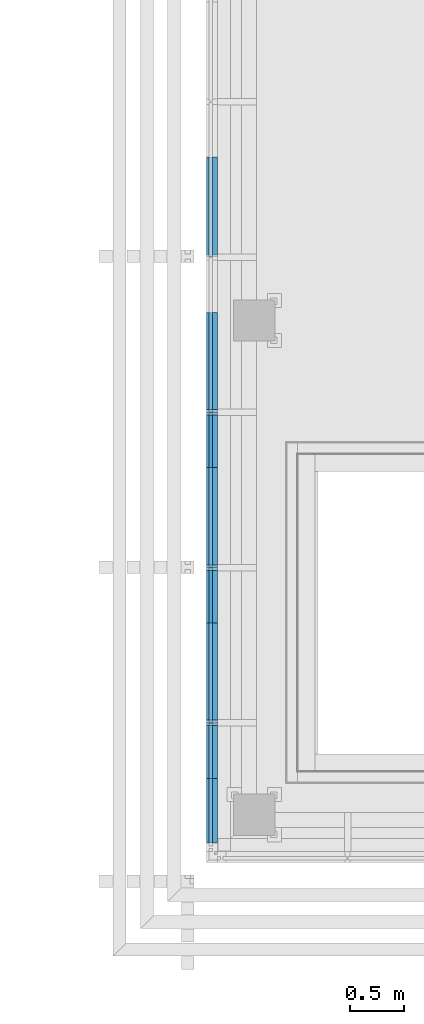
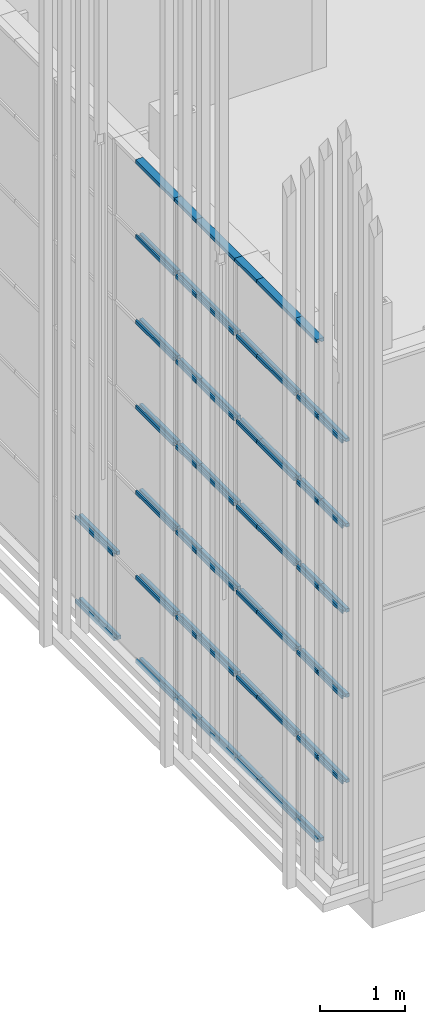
# One storey, part 39 of 260: 49 members, 1 element without a shape of its own.
"""IFC2X3 building model written with IfcOpenShell, lengths in millimetres."""

from ifc_helpers import new_model, entity, si_unit, converted_unit, derived_unit, money_unit, direction, frame, origin_with_axes, place, context, subcontext, project, spatial, faceted_brep, source, transform, mapped, material, type_object, element, aggregate, save


model = new_model("IFC2X3")

# Units and contexts
model_context = context("Model", 3, precision=0.01, world=origin_with_axes(), true_north=direction((0.0, 1.0)))
body_context = subcontext(model_context, "Body", "Model", "MODEL_VIEW")
ifc_project = project(units=[si_unit("LENGTHUNIT", "METRE", prefix="MILLI"), si_unit("AREAUNIT", "SQUARE_METRE"), si_unit("VOLUMEUNIT", "CUBIC_METRE"), converted_unit("PLANEANGLEUNIT", "DEGREE", entity("IfcPlaneAngleMeasure", 0.0174532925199), si_unit("PLANEANGLEUNIT", "RADIAN"), dimensions=[0, 0, 0, 0, 0, 0, 0]), money_unit("EUR"), converted_unit("TIMEUNIT", "Year", entity("IfcTimeMeasure", 31556926.0), si_unit("TIMEUNIT", "SECOND"), dimensions=[0, 0, 1, 0, 0, 0, 0]), si_unit("MASSUNIT", "GRAM", prefix="KILO"), si_unit("THERMODYNAMICTEMPERATUREUNIT", "DEGREE_CELSIUS"), si_unit("LUMINOUSINTENSITYUNIT", "LUMEN"), si_unit("ENERGYUNIT", "JOULE", prefix="MEGA"), derived_unit("THERMALCONDUCTANCEUNIT", [(si_unit("POWERUNIT", "WATT"), 1), (si_unit("LENGTHUNIT", "METRE"), -1), (si_unit("THERMODYNAMICTEMPERATUREUNIT", "KELVIN"), -1)]), derived_unit("SPECIFICHEATCAPACITYUNIT", [(si_unit("ENERGYUNIT", "JOULE"), 1), (si_unit("MASSUNIT", "GRAM", prefix="KILO"), -1), (si_unit("THERMODYNAMICTEMPERATUREUNIT", "KELVIN"), -1)]), derived_unit("MASSDENSITYUNIT", [(si_unit("MASSUNIT", "GRAM", prefix="KILO"), 1), (si_unit("VOLUMEUNIT", "CUBIC_METRE"), -1)])], contexts=[model_context])

# Site, building, storey
site_placement = place(None, origin_with_axes())
site = spatial("IfcSite", under=ifc_project, at=site_placement, Name="Kolde pst 67a", CompositionType="ELEMENT")
building_placement = place(site_placement, origin_with_axes())
building = spatial("IfcBuilding", under=site, at=building_placement, Name="Riigigümnaasium", CompositionType="ELEMENT")
storey_placement = place(building_placement, origin_with_axes())
storey = spatial("IfcBuildingStorey", under=building, at=storey_placement, Name="1. korrus", CompositionType="ELEMENT", Elevation=0.0)

# Curtain wall, members
curtain_wall_type = type_object("IfcCurtainWallType", Name="Curtain Wall Type", PredefinedType="NOTDEFINED")
curtain_wall_placement = place(storey_placement, frame((47829.9854655, 8727.77020058, -0.000749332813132), z_axis=(0.0, 0.0, 1.0), x_axis=(1.0, 0.0, 0.0)))
curtain_wall = element("IfcCurtainWall", 1, at=curtain_wall_placement, inside=storey, type_object=curtain_wall_type, Name="KLAASFASSAAD")
ifc_material = material(Name="_METALL - alumiinium")
member_type_1 = type_object("IfcMemberType", Name="Transom Frame 50 x 100", PredefinedType="MEMBER")
shared_shape_1 = source(origin_with_axes(), body_context, "Body", "Brep", [
    faceted_brep([(5.0, -16.5, 734.770410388), (5.0, 16.5, 734.770410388), (25.0, 16.5, 734.770410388), (25.0, 40.0, 734.770410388), (-25.0, 40.0, 734.770410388), (-25.0, 16.5, 734.770410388), (-5.0, 16.5, 734.770410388), (-5.0, -16.5, 734.770410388), (-25.0, -16.5, 734.770410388), (-25.0, -60.0, 734.770410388), (25.0, -60.0, 734.770410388), (25.0, -16.5, 734.770410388), (5.0, -16.5, 140.0), (5.0, 16.5, 140.0), (25.0, 16.5, 140.0), (25.0, 40.0, 140.0), (-25.0, 40.0, 140.0), (-25.0, 16.5, 140.0), (-5.0, 16.5, 140.0), (-5.0, -16.5, 140.0), (-25.0, -16.5, 140.0), (-25.0, -60.0, 140.0), (25.0, -60.0, 140.0), (25.0, -16.5, 140.0)], [[[0, 1, 2, 3, 4, 5, 6, 7, 8, 9, 10, 11]], [[0, 12, 13, 1]], [[1, 13, 14, 2]], [[14, 15, 3, 2]], [[4, 3, 15, 16]], [[17, 5, 4, 16]], [[5, 17, 18, 6]], [[7, 6, 18, 19]], [[8, 7, 19, 20]], [[8, 20, 21, 9]], [[10, 9, 21, 22]], [[11, 10, 22, 23]], [[11, 23, 12, 0]], [[13, 12, 23, 22, 21, 20, 19, 18, 17, 16, 15, 14]]]),
])
member_1_placement = place(curtain_wall_placement, frame((-23999.9841542, 15102.5038042, 6150.00074933), z_axis=(7.6476848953e-06, 0.999999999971, 0.0), x_axis=(0.0, 0.0, 1.0)))
member_1 = element("IfcMember", 2, at=member_1_placement, type_object=member_type_1, material=ifc_material, Name="RF RAAM HOR-241", ObjectType="MEMBER", context=body_context, shape_type="MappedRepresentation", body=[
    mapped(shared_shape_1, transform((0.0, 0.0, 0.0), x_axis=(-1.0, 0.0, 0.0), y_axis=(0.0, -1.0, 0.0), z_axis=(0.0, 0.0, 1.0))),
])
member_2_placement = place(curtain_wall_placement, frame((-23999.9841542, 15102.5038042, 4920.00074933), z_axis=(7.6476848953e-06, 0.999999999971, 0.0), x_axis=(0.0, 0.0, 1.0)))
member_2 = element("IfcMember", 3, at=member_2_placement, type_object=member_type_1, material=ifc_material, Name="RF RAAM HOR-242", ObjectType="MEMBER", context=body_context, shape_type="MappedRepresentation", body=[
    mapped(shared_shape_1, transform((0.0, 0.0, 0.0), x_axis=(-1.0, 0.0, 0.0), y_axis=(0.0, -1.0, 0.0), z_axis=(0.0, 0.0, 1.0))),
])
member_3_placement = place(curtain_wall_placement, frame((-23999.9841542, 15102.5038042, 3690.00074933), z_axis=(7.6476848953e-06, 0.999999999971, 0.0), x_axis=(0.0, 0.0, 1.0)))
member_3 = element("IfcMember", 4, at=member_3_placement, type_object=member_type_1, material=ifc_material, Name="RF RAAM HOR-243", ObjectType="MEMBER", context=body_context, shape_type="MappedRepresentation", body=[
    mapped(shared_shape_1, transform((0.0, 0.0, 0.0), x_axis=(-1.0, 0.0, 0.0), y_axis=(0.0, -1.0, 0.0), z_axis=(0.0, 0.0, 1.0))),
])
member_4_placement = place(curtain_wall_placement, frame((-23999.9841542, 15102.5038042, 2460.00074933), z_axis=(7.6476848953e-06, 0.999999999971, 0.0), x_axis=(0.0, 0.0, 1.0)))
member_4 = element("IfcMember", 5, at=member_4_placement, type_object=member_type_1, material=ifc_material, Name="RF RAAM HOR-244", ObjectType="MEMBER", context=body_context, shape_type="MappedRepresentation", body=[
    mapped(shared_shape_1, transform((0.0, 0.0, 0.0), x_axis=(-1.0, 0.0, 0.0), y_axis=(0.0, -1.0, 0.0), z_axis=(0.0, 0.0, 1.0))),
])
member_5_placement = place(curtain_wall_placement, frame((-23999.9841542, 15102.5038042, 1230.00074933), z_axis=(7.6476848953e-06, 0.999999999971, 0.0), x_axis=(0.0, 0.0, 1.0)))
member_5 = element("IfcMember", 6, at=member_5_placement, type_object=member_type_1, material=ifc_material, Name="RF RAAM HOR-245", ObjectType="MEMBER", context=body_context, shape_type="MappedRepresentation", body=[
    mapped(shared_shape_1, transform((0.0, 0.0, 0.0), x_axis=(-1.0, 0.0, 0.0), y_axis=(0.0, -1.0, 0.0), z_axis=(0.0, 0.0, 1.0))),
])
member_type_2 = type_object("IfcMemberType", Name="Boundary Frame 50 x 100", PredefinedType="MEMBER")
shared_shape_2 = source(origin_with_axes(), body_context, "Body", "Brep", [
    faceted_brep([(-30.0, -16.5, 920.000003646), (-50.0, -16.5, 920.000003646), (-50.0, -60.0, 920.000003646), (0.0, -60.0, 920.000003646), (0.0, 40.0, 920.000003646), (-50.0, 40.0, 920.000003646), (-50.0, 16.5, 920.000003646), (-30.0, 16.5, 920.000003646), (-30.0, -16.5, 0.0), (-50.0, -16.5, 0.0), (-50.0, -60.0, 0.0), (0.0, -60.0, 0.0), (0.0, 40.0, 0.0), (-50.0, 40.0, 0.0), (-50.0, 16.5, 0.0), (-30.0, 16.5, 0.0)], [[[0, 1, 2, 3, 4, 5, 6, 7]], [[0, 8, 9, 1]], [[9, 10, 2, 1]], [[10, 11, 3, 2]], [[11, 12, 4, 3]], [[12, 13, 5, 4]], [[6, 5, 13, 14]], [[14, 15, 7, 6]], [[7, 15, 8, 0]], [[8, 15, 14, 13, 12, 11, 10, 9]]]),
])
member_6_placement = place(curtain_wall_placement, frame((-23999.9746346, 16347.2742109, 2.49889189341e-05), z_axis=(7.64768488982e-06, 0.999999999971, 0.0), x_axis=(0.0, 0.0, 1.0)))
member_6 = element("IfcMember", 7, at=member_6_placement, type_object=member_type_2, material=ifc_material, Name="RF RAAM SERV-636", ObjectType="MEMBER", context=body_context, shape_type="MappedRepresentation", body=[
    mapped(shared_shape_2, transform((0.0, 0.0, 0.0), x_axis=(-1.0, 0.0, 0.0), y_axis=(0.0, -1.0, 0.0), z_axis=(0.0, 0.0, 1.0))),
])
member_7_placement = place(curtain_wall_placement, frame((-23999.9636984, 17777.2742085, 2.49889189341e-05), z_axis=(7.64768489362e-06, 0.999999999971, 0.0), x_axis=(0.0, 0.0, 1.0)))
member_7 = element("IfcMember", 8, at=member_7_placement, type_object=member_type_2, material=ifc_material, Name="RF RAAM SERV-637", ObjectType="MEMBER", context=body_context, shape_type="MappedRepresentation", body=[
    mapped(shared_shape_2, transform((0.0, 0.0, 0.0), x_axis=(-1.0, 0.0, 0.0), y_axis=(0.0, -1.0, 0.0), z_axis=(0.0, 0.0, 1.0))),
])
member_8_placement = place(curtain_wall_placement, frame((-23999.9527623, 19207.2742061, 2.49889189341e-05), z_axis=(7.64768489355e-06, 0.999999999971, 0.0), x_axis=(0.0, 0.0, 1.0)))
member_8 = element("IfcMember", 9, at=member_8_placement, type_object=member_type_2, material=ifc_material, Name="RF RAAM SERV-638", ObjectType="MEMBER", context=body_context, shape_type="MappedRepresentation", body=[
    mapped(shared_shape_2, transform((0.0, 0.0, 0.0), x_axis=(-1.0, 0.0, 0.0), y_axis=(0.0, -1.0, 0.0), z_axis=(0.0, 0.0, 1.0))),
])
member_9_placement = place(curtain_wall_placement, frame((-23999.9418261, 20637.2742038, 2.49889189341e-05), z_axis=(7.64768489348e-06, 0.999999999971, 0.0), x_axis=(0.0, 0.0, 1.0)))
member_9 = element("IfcMember", 10, at=member_9_placement, type_object=member_type_2, material=ifc_material, Name="RF RAAM SERV-639", ObjectType="MEMBER", context=body_context, shape_type="MappedRepresentation", body=[
    mapped(shared_shape_2, transform((0.0, 0.0, 0.0), x_axis=(-1.0, 0.0, 0.0), y_axis=(0.0, -1.0, 0.0), z_axis=(0.0, 0.0, 1.0))),
])
member_10_placement = place(curtain_wall_placement, frame((-23999.9566626, 18697.2742145, 7259.99963417), z_axis=(-7.64768489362e-06, -0.999999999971, 0.0), x_axis=(0.0, 0.0, -1.0)))
member_10 = element("IfcMember", 11, at=member_10_placement, type_object=member_type_2, material=ifc_material, Name="RF RAAM SERV-660", ObjectType="MEMBER", context=body_context, shape_type="MappedRepresentation", body=[
    mapped(shared_shape_2, transform((0.0, 0.0, 0.0), x_axis=(-1.0, 0.0, 0.0), y_axis=(0.0, -0.999999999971, 7.64768489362e-06), z_axis=(0.0, 7.64768489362e-06, 0.999999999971))),
])
member_11_placement = place(curtain_wall_placement, frame((-23999.9457264, 20127.2742144, 7259.99963417), z_axis=(-7.64768489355e-06, -0.999999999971, 0.0), x_axis=(0.0, 0.0, -1.0)))
member_11 = element("IfcMember", 12, at=member_11_placement, type_object=member_type_2, material=ifc_material, Name="RF RAAM SERV-659", ObjectType="MEMBER", context=body_context, shape_type="MappedRepresentation", body=[
    mapped(shared_shape_2, transform((0.0, 0.0, 0.0), x_axis=(-1.0, 0.0, 0.0), y_axis=(0.0, -0.999999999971, 7.64768489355e-06), z_axis=(0.0, 7.64768489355e-06, 0.999999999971))),
])
member_12_placement = place(curtain_wall_placement, frame((-23999.9675988, 17267.2742145, 7259.99963417), z_axis=(-7.64768488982e-06, -0.999999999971, 0.0), x_axis=(0.0, 0.0, -1.0)))
member_12 = element("IfcMember", 13, at=member_12_placement, type_object=member_type_2, material=ifc_material, Name="RF RAAM SERV-661", ObjectType="MEMBER", context=body_context, shape_type="MappedRepresentation", body=[
    mapped(shared_shape_2, transform((0.0, 0.0, 0.0), x_axis=(-1.0, 0.0, 0.0), y_axis=(0.0, -0.999999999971, 7.64768488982e-06), z_axis=(0.0, 7.64768488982e-06, 0.999999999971))),
])
shared_shape_3 = source(origin_with_axes(), body_context, "Body", "Brep", [
    faceted_brep([(5.0, -16.5, 919.999993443), (5.0, 16.5, 919.999993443), (25.0, 16.5, 919.999993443), (25.0, 40.0, 919.999993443), (-25.0, 40.0, 919.999993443), (-25.0, 16.5, 919.999993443), (-5.0, 16.5, 919.999993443), (-5.0, -16.5, 919.999993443), (-25.0, -16.5, 919.999993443), (-25.0, -60.0, 919.999993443), (25.0, -60.0, 919.999993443), (25.0, -16.5, 919.999993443), (5.0, -16.5, 25.0000001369), (5.0, 16.5, 24.9999998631), (25.0, 16.5, 24.9999998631), (25.0, 40.0, 24.9999996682), (-25.0, 40.0, 24.9999996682), (-25.0, 16.5, 24.9999998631), (-5.0, 16.5, 24.9999998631), (-5.0, -16.5, 25.0000001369), (-25.0, -16.5, 25.0000001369), (-25.0, -60.0, 25.0000004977), (25.0, -60.0, 25.0000004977), (25.0, -16.5, 25.0000001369)], [[[0, 1, 2, 3, 4, 5, 6, 7, 8, 9, 10, 11]], [[0, 12, 13, 1]], [[1, 13, 14, 2]], [[14, 15, 3, 2]], [[4, 3, 15, 16]], [[17, 5, 4, 16]], [[5, 17, 18, 6]], [[7, 6, 18, 19]], [[8, 7, 19, 20]], [[8, 20, 21, 9]], [[10, 9, 21, 22]], [[11, 10, 22, 23]], [[11, 23, 12, 0]], [[13, 12, 23, 22, 21, 20, 19, 18, 17, 16, 15, 14]]]),
])
member_13_placement = place(curtain_wall_placement, frame((-23999.9746346, 16347.2742211, 1230.00074933), z_axis=(7.64768488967e-06, 0.999999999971, 0.0), x_axis=(0.0, 0.0, 1.0)))
member_13 = element("IfcMember", 14, at=member_13_placement, type_object=member_type_1, material=ifc_material, Name="RF RAAM HOR-301", ObjectType="MEMBER", context=body_context, shape_type="MappedRepresentation", body=[
    mapped(shared_shape_3, transform((0.0, 0.0, 0.0), x_axis=(-1.0, 0.0, 0.0), y_axis=(0.0, -1.0, 0.0), z_axis=(0.0, 0.0, 1.0))),
])
member_14_placement = place(curtain_wall_placement, frame((-23999.9636984, 17777.274221, 1230.00074933), z_axis=(7.64768489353e-06, 0.999999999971, 0.0), x_axis=(0.0, 0.0, 1.0)))
member_14 = element("IfcMember", 15, at=member_14_placement, type_object=member_type_1, material=ifc_material, Name="RF RAAM HOR-302", ObjectType="MEMBER", context=body_context, shape_type="MappedRepresentation", body=[
    mapped(shared_shape_3, transform((0.0, 0.0, 0.0), x_axis=(-1.0, 0.0, 0.0), y_axis=(0.0, -1.0, 0.0), z_axis=(0.0, 0.0, 1.0))),
])
member_15_placement = place(curtain_wall_placement, frame((-23999.9527623, 19207.274221, 1230.00074933), z_axis=(7.64768489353e-06, 0.999999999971, 0.0), x_axis=(0.0, 0.0, 1.0)))
member_15 = element("IfcMember", 16, at=member_15_placement, type_object=member_type_1, material=ifc_material, Name="RF RAAM HOR-303", ObjectType="MEMBER", context=body_context, shape_type="MappedRepresentation", body=[
    mapped(shared_shape_3, transform((0.0, 0.0, 0.0), x_axis=(-1.0, 0.0, 0.0), y_axis=(0.0, -1.0, 0.0), z_axis=(0.0, 0.0, 1.0))),
])
member_16_placement = place(curtain_wall_placement, frame((-23999.9418261, 20637.274221, 1230.00074933), z_axis=(7.64768489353e-06, 0.999999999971, 0.0), x_axis=(0.0, 0.0, 1.0)))
member_16 = element("IfcMember", 17, at=member_16_placement, type_object=member_type_1, material=ifc_material, Name="RF RAAM HOR-304", ObjectType="MEMBER", context=body_context, shape_type="MappedRepresentation", body=[
    mapped(shared_shape_3, transform((0.0, 0.0, 0.0), x_axis=(-1.0, 0.0, 0.0), y_axis=(0.0, -1.0, 0.0), z_axis=(0.0, 0.0, 1.0))),
])
member_17_placement = place(curtain_wall_placement, frame((-23999.9746346, 16347.2742211, 2460.00074933), z_axis=(7.64768488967e-06, 0.999999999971, 0.0), x_axis=(0.0, 0.0, 1.0)))
member_17 = element("IfcMember", 18, at=member_17_placement, type_object=member_type_1, material=ifc_material, Name="RF RAAM HOR-312", ObjectType="MEMBER", context=body_context, shape_type="MappedRepresentation", body=[
    mapped(shared_shape_3, transform((0.0, 0.0, 0.0), x_axis=(-1.0, 0.0, 0.0), y_axis=(0.0, -1.0, 0.0), z_axis=(0.0, 0.0, 1.0))),
])
member_18_placement = place(curtain_wall_placement, frame((-23999.9636984, 17777.274221, 2460.00074933), z_axis=(7.64768489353e-06, 0.999999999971, 0.0), x_axis=(0.0, 0.0, 1.0)))
member_18 = element("IfcMember", 19, at=member_18_placement, type_object=member_type_1, material=ifc_material, Name="RF RAAM HOR-313", ObjectType="MEMBER", context=body_context, shape_type="MappedRepresentation", body=[
    mapped(shared_shape_3, transform((0.0, 0.0, 0.0), x_axis=(-1.0, 0.0, 0.0), y_axis=(0.0, -1.0, 0.0), z_axis=(0.0, 0.0, 1.0))),
])
member_19_placement = place(curtain_wall_placement, frame((-23999.9527623, 19207.274221, 2460.00074933), z_axis=(7.64768489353e-06, 0.999999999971, 0.0), x_axis=(0.0, 0.0, 1.0)))
member_19 = element("IfcMember", 20, at=member_19_placement, type_object=member_type_1, material=ifc_material, Name="RF RAAM HOR-314", ObjectType="MEMBER", context=body_context, shape_type="MappedRepresentation", body=[
    mapped(shared_shape_3, transform((0.0, 0.0, 0.0), x_axis=(-1.0, 0.0, 0.0), y_axis=(0.0, -1.0, 0.0), z_axis=(0.0, 0.0, 1.0))),
])
member_20_placement = place(curtain_wall_placement, frame((-23999.9746346, 16347.2742211, 3690.00074933), z_axis=(7.64768488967e-06, 0.999999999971, 0.0), x_axis=(0.0, 0.0, 1.0)))
member_20 = element("IfcMember", 21, at=member_20_placement, type_object=member_type_1, material=ifc_material, Name="RF RAAM HOR-323", ObjectType="MEMBER", context=body_context, shape_type="MappedRepresentation", body=[
    mapped(shared_shape_3, transform((0.0, 0.0, 0.0), x_axis=(-1.0, 0.0, 0.0), y_axis=(0.0, -1.0, 0.0), z_axis=(0.0, 0.0, 1.0))),
])
member_21_placement = place(curtain_wall_placement, frame((-23999.9636984, 17777.274221, 3690.00074933), z_axis=(7.64768489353e-06, 0.999999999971, 0.0), x_axis=(0.0, 0.0, 1.0)))
member_21 = element("IfcMember", 22, at=member_21_placement, type_object=member_type_1, material=ifc_material, Name="RF RAAM HOR-324", ObjectType="MEMBER", context=body_context, shape_type="MappedRepresentation", body=[
    mapped(shared_shape_3, transform((0.0, 0.0, 0.0), x_axis=(-1.0, 0.0, 0.0), y_axis=(0.0, -1.0, 0.0), z_axis=(0.0, 0.0, 1.0))),
])
member_22_placement = place(curtain_wall_placement, frame((-23999.9527623, 19207.274221, 3690.00074933), z_axis=(7.64768489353e-06, 0.999999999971, 0.0), x_axis=(0.0, 0.0, 1.0)))
member_22 = element("IfcMember", 23, at=member_22_placement, type_object=member_type_1, material=ifc_material, Name="RF RAAM HOR-325", ObjectType="MEMBER", context=body_context, shape_type="MappedRepresentation", body=[
    mapped(shared_shape_3, transform((0.0, 0.0, 0.0), x_axis=(-1.0, 0.0, 0.0), y_axis=(0.0, -1.0, 0.0), z_axis=(0.0, 0.0, 1.0))),
])
member_23_placement = place(curtain_wall_placement, frame((-23999.9746346, 16347.2742211, 4920.00074933), z_axis=(7.64768488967e-06, 0.999999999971, 0.0), x_axis=(0.0, 0.0, 1.0)))
member_23 = element("IfcMember", 24, at=member_23_placement, type_object=member_type_1, material=ifc_material, Name="RF RAAM HOR-334", ObjectType="MEMBER", context=body_context, shape_type="MappedRepresentation", body=[
    mapped(shared_shape_3, transform((0.0, 0.0, 0.0), x_axis=(-1.0, 0.0, 0.0), y_axis=(0.0, -1.0, 0.0), z_axis=(0.0, 0.0, 1.0))),
])
member_24_placement = place(curtain_wall_placement, frame((-23999.9636984, 17777.274221, 4920.00074933), z_axis=(7.64768489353e-06, 0.999999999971, 0.0), x_axis=(0.0, 0.0, 1.0)))
member_24 = element("IfcMember", 25, at=member_24_placement, type_object=member_type_1, material=ifc_material, Name="RF RAAM HOR-335", ObjectType="MEMBER", context=body_context, shape_type="MappedRepresentation", body=[
    mapped(shared_shape_3, transform((0.0, 0.0, 0.0), x_axis=(-1.0, 0.0, 0.0), y_axis=(0.0, -1.0, 0.0), z_axis=(0.0, 0.0, 1.0))),
])
member_25_placement = place(curtain_wall_placement, frame((-23999.9527623, 19207.274221, 4920.00074933), z_axis=(7.64768489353e-06, 0.999999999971, 0.0), x_axis=(0.0, 0.0, 1.0)))
member_25 = element("IfcMember", 26, at=member_25_placement, type_object=member_type_1, material=ifc_material, Name="RF RAAM HOR-336", ObjectType="MEMBER", context=body_context, shape_type="MappedRepresentation", body=[
    mapped(shared_shape_3, transform((0.0, 0.0, 0.0), x_axis=(-1.0, 0.0, 0.0), y_axis=(0.0, -1.0, 0.0), z_axis=(0.0, 0.0, 1.0))),
])
member_26_placement = place(curtain_wall_placement, frame((-23999.9746346, 16347.2742109, 6150.00074933), z_axis=(7.64768488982e-06, 0.999999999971, 0.0), x_axis=(0.0, 0.0, 1.0)))
member_26 = element("IfcMember", 27, at=member_26_placement, type_object=member_type_1, material=ifc_material, Name="RF RAAM HOR-345", ObjectType="MEMBER", context=body_context, shape_type="MappedRepresentation", body=[
    mapped(shared_shape_3, transform((0.0, 0.0, 0.0), x_axis=(-1.0, 0.0, 0.0), y_axis=(0.0, -1.0, 0.0), z_axis=(0.0, 0.0, 1.0))),
])
member_27_placement = place(curtain_wall_placement, frame((-23999.9636984, 17777.2742085, 6150.00074933), z_axis=(7.64768489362e-06, 0.999999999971, 0.0), x_axis=(0.0, 0.0, 1.0)))
member_27 = element("IfcMember", 28, at=member_27_placement, type_object=member_type_1, material=ifc_material, Name="RF RAAM HOR-346", ObjectType="MEMBER", context=body_context, shape_type="MappedRepresentation", body=[
    mapped(shared_shape_3, transform((0.0, 0.0, 0.0), x_axis=(-1.0, 0.0, 0.0), y_axis=(0.0, -1.0, 0.0), z_axis=(0.0, 0.0, 1.0))),
])
member_28_placement = place(curtain_wall_placement, frame((-23999.9527623, 19207.2742061, 6150.00074933), z_axis=(7.64768489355e-06, 0.999999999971, 0.0), x_axis=(0.0, 0.0, 1.0)))
member_28 = element("IfcMember", 29, at=member_28_placement, type_object=member_type_1, material=ifc_material, Name="RF RAAM HOR-347", ObjectType="MEMBER", context=body_context, shape_type="MappedRepresentation", body=[
    mapped(shared_shape_3, transform((0.0, 0.0, 0.0), x_axis=(-1.0, 0.0, 0.0), y_axis=(0.0, -1.0, 0.0), z_axis=(0.0, 0.0, 1.0))),
])
shared_shape_4 = source(origin_with_axes(), body_context, "Body", "Brep", [
    faceted_brep([(5.0, -16.5, 485.000001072), (5.0, 16.5, 485.000001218), (25.0, 16.5, 485.000001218), (25.0, 40.0, 485.000001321), (-25.0, 40.0, 485.000001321), (-25.0, 16.5, 485.000001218), (-5.0, 16.5, 485.000001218), (-5.0, -16.5, 485.000001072), (-25.0, -16.5, 485.000001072), (-25.0, -60.0, 485.000000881), (25.0, -60.0, 485.000000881), (25.0, -16.5, 485.000001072), (5.0, -16.5, 0.0), (5.0, 16.5, 0.0), (25.0, 16.5, 0.0), (25.0, 40.0, 0.0), (-25.0, 40.0, 0.0), (-25.0, 16.5, 0.0), (-5.0, 16.5, 0.0), (-5.0, -16.5, 0.0), (-25.0, -16.5, 0.0), (-25.0, -60.0, 0.0), (25.0, -60.0, 0.0), (25.0, -16.5, 0.0)], [[[0, 1, 2, 3, 4, 5, 6, 7, 8, 9, 10, 11]], [[0, 12, 13, 1]], [[1, 13, 14, 2]], [[14, 15, 3, 2]], [[3, 15, 16, 4]], [[17, 5, 4, 16]], [[5, 17, 18, 6]], [[7, 6, 18, 19]], [[8, 7, 19, 20]], [[8, 20, 21, 9]], [[9, 21, 22, 10]], [[11, 10, 22, 23]], [[11, 23, 12, 0]], [[13, 12, 23, 22, 21, 20, 19, 18, 17, 16, 15, 14]]]),
])
member_29_placement = place(curtain_wall_placement, frame((-23999.9566626, 18697.2742145, 6150.00074933), z_axis=(7.64768489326e-06, 0.999999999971, 0.0), x_axis=(0.0, 0.0, 1.0)))
member_29 = element("IfcMember", 30, at=member_29_placement, type_object=member_type_1, material=ifc_material, Name="RF RAAM HOR-597", ObjectType="MEMBER", context=body_context, shape_type="MappedRepresentation", body=[
    mapped(shared_shape_4, transform((0.0, 0.0, 0.0), x_axis=(-1.0, 0.0, 0.0), y_axis=(0.0, -1.0, 0.0), z_axis=(0.0, 0.0, 1.0))),
])
member_30_placement = place(curtain_wall_placement, frame((-23999.9675988, 17267.2742145, 6150.00074933), z_axis=(7.64768489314e-06, 0.999999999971, 0.0), x_axis=(0.0, 0.0, 1.0)))
member_30 = element("IfcMember", 31, at=member_30_placement, type_object=member_type_1, material=ifc_material, Name="RF RAAM HOR-598", ObjectType="MEMBER", context=body_context, shape_type="MappedRepresentation", body=[
    mapped(shared_shape_4, transform((0.0, 0.0, 0.0), x_axis=(-1.0, 0.0, 0.0), y_axis=(0.0, -1.0, 0.0), z_axis=(0.0, 0.0, 1.0))),
])
member_31_placement = place(curtain_wall_placement, frame((-23999.978535, 15837.2742145, 6150.00074933), z_axis=(7.64768489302e-06, 0.999999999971, 0.0), x_axis=(0.0, 0.0, 1.0)))
member_31 = element("IfcMember", 32, at=member_31_placement, type_object=member_type_1, material=ifc_material, Name="RF RAAM HOR-599", ObjectType="MEMBER", context=body_context, shape_type="MappedRepresentation", body=[
    mapped(shared_shape_4, transform((0.0, 0.0, 0.0), x_axis=(-1.0, 0.0, 0.0), y_axis=(0.0, -1.0, 0.0), z_axis=(0.0, 0.0, 1.0))),
])
member_32_placement = place(curtain_wall_placement, frame((-23999.9566626, 18697.2742145, 4920.00074933), z_axis=(7.64768489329e-06, 0.999999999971, 0.0), x_axis=(0.0, 0.0, 1.0)))
member_32 = element("IfcMember", 33, at=member_32_placement, type_object=member_type_1, material=ifc_material, Name="RF RAAM HOR-624", ObjectType="MEMBER", context=body_context, shape_type="MappedRepresentation", body=[
    mapped(shared_shape_4, transform((0.0, 0.0, 0.0), x_axis=(-1.0, 0.0, 0.0), y_axis=(0.0, -1.0, 0.0), z_axis=(0.0, 0.0, 1.0))),
])
member_33_placement = place(curtain_wall_placement, frame((-23999.9566626, 18697.2742145, 3690.00074933), z_axis=(7.64768489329e-06, 0.999999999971, 0.0), x_axis=(0.0, 0.0, 1.0)))
member_33 = element("IfcMember", 34, at=member_33_placement, type_object=member_type_1, material=ifc_material, Name="RF RAAM HOR-625", ObjectType="MEMBER", context=body_context, shape_type="MappedRepresentation", body=[
    mapped(shared_shape_4, transform((0.0, 0.0, 0.0), x_axis=(-1.0, 0.0, 0.0), y_axis=(0.0, -1.0, 0.0), z_axis=(0.0, 0.0, 1.0))),
])
member_34_placement = place(curtain_wall_placement, frame((-23999.9566626, 18697.2742145, 2460.00074933), z_axis=(7.64768489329e-06, 0.999999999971, 0.0), x_axis=(0.0, 0.0, 1.0)))
member_34 = element("IfcMember", 35, at=member_34_placement, type_object=member_type_1, material=ifc_material, Name="RF RAAM HOR-626", ObjectType="MEMBER", context=body_context, shape_type="MappedRepresentation", body=[
    mapped(shared_shape_4, transform((0.0, 0.0, 0.0), x_axis=(-1.0, 0.0, 0.0), y_axis=(0.0, -1.0, 0.0), z_axis=(0.0, 0.0, 1.0))),
])
member_35_placement = place(curtain_wall_placement, frame((-23999.9566626, 18697.2742145, 1230.00074933), z_axis=(7.64768489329e-06, 0.999999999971, 0.0), x_axis=(0.0, 0.0, 1.0)))
member_35 = element("IfcMember", 36, at=member_35_placement, type_object=member_type_1, material=ifc_material, Name="RF RAAM HOR-627", ObjectType="MEMBER", context=body_context, shape_type="MappedRepresentation", body=[
    mapped(shared_shape_4, transform((0.0, 0.0, 0.0), x_axis=(-1.0, 0.0, 0.0), y_axis=(0.0, -1.0, 0.0), z_axis=(0.0, 0.0, 1.0))),
])
member_36_placement = place(curtain_wall_placement, frame((-23999.9675988, 17267.2742145, 4920.00074933), z_axis=(7.64768489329e-06, 0.999999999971, 0.0), x_axis=(0.0, 0.0, 1.0)))
member_36 = element("IfcMember", 37, at=member_36_placement, type_object=member_type_1, material=ifc_material, Name="RF RAAM HOR-628", ObjectType="MEMBER", context=body_context, shape_type="MappedRepresentation", body=[
    mapped(shared_shape_4, transform((0.0, 0.0, 0.0), x_axis=(-1.0, 0.0, 0.0), y_axis=(0.0, -1.0, 0.0), z_axis=(0.0, 0.0, 1.0))),
])
member_37_placement = place(curtain_wall_placement, frame((-23999.9675988, 17267.2742145, 3690.00074933), z_axis=(7.64768489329e-06, 0.999999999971, 0.0), x_axis=(0.0, 0.0, 1.0)))
member_37 = element("IfcMember", 38, at=member_37_placement, type_object=member_type_1, material=ifc_material, Name="RF RAAM HOR-629", ObjectType="MEMBER", context=body_context, shape_type="MappedRepresentation", body=[
    mapped(shared_shape_4, transform((0.0, 0.0, 0.0), x_axis=(-1.0, 0.0, 0.0), y_axis=(0.0, -1.0, 0.0), z_axis=(0.0, 0.0, 1.0))),
])
member_38_placement = place(curtain_wall_placement, frame((-23999.9675988, 17267.2742145, 2460.00074933), z_axis=(7.64768489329e-06, 0.999999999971, 0.0), x_axis=(0.0, 0.0, 1.0)))
member_38 = element("IfcMember", 39, at=member_38_placement, type_object=member_type_1, material=ifc_material, Name="RF RAAM HOR-630", ObjectType="MEMBER", context=body_context, shape_type="MappedRepresentation", body=[
    mapped(shared_shape_4, transform((0.0, 0.0, 0.0), x_axis=(-1.0, 0.0, 0.0), y_axis=(0.0, -1.0, 0.0), z_axis=(0.0, 0.0, 1.0))),
])
member_39_placement = place(curtain_wall_placement, frame((-23999.9675988, 17267.2742145, 1230.00074933), z_axis=(7.64768489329e-06, 0.999999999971, 0.0), x_axis=(0.0, 0.0, 1.0)))
member_39 = element("IfcMember", 40, at=member_39_placement, type_object=member_type_1, material=ifc_material, Name="RF RAAM HOR-631", ObjectType="MEMBER", context=body_context, shape_type="MappedRepresentation", body=[
    mapped(shared_shape_4, transform((0.0, 0.0, 0.0), x_axis=(-1.0, 0.0, 0.0), y_axis=(0.0, -1.0, 0.0), z_axis=(0.0, 0.0, 1.0))),
])
member_40_placement = place(curtain_wall_placement, frame((-23999.978535, 15837.2742145, 4920.00074933), z_axis=(7.64768489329e-06, 0.999999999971, 0.0), x_axis=(0.0, 0.0, 1.0)))
member_40 = element("IfcMember", 41, at=member_40_placement, type_object=member_type_1, material=ifc_material, Name="RF RAAM HOR-632", ObjectType="MEMBER", context=body_context, shape_type="MappedRepresentation", body=[
    mapped(shared_shape_4, transform((0.0, 0.0, 0.0), x_axis=(-1.0, 0.0, 0.0), y_axis=(0.0, -1.0, 0.0), z_axis=(0.0, 0.0, 1.0))),
])
member_41_placement = place(curtain_wall_placement, frame((-23999.978535, 15837.2742145, 3690.00074933), z_axis=(7.64768489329e-06, 0.999999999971, 0.0), x_axis=(0.0, 0.0, 1.0)))
member_41 = element("IfcMember", 42, at=member_41_placement, type_object=member_type_1, material=ifc_material, Name="RF RAAM HOR-633", ObjectType="MEMBER", context=body_context, shape_type="MappedRepresentation", body=[
    mapped(shared_shape_4, transform((0.0, 0.0, 0.0), x_axis=(-1.0, 0.0, 0.0), y_axis=(0.0, -1.0, 0.0), z_axis=(0.0, 0.0, 1.0))),
])
member_42_placement = place(curtain_wall_placement, frame((-23999.978535, 15837.2742145, 2460.00074933), z_axis=(7.64768489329e-06, 0.999999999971, 0.0), x_axis=(0.0, 0.0, 1.0)))
member_42 = element("IfcMember", 43, at=member_42_placement, type_object=member_type_1, material=ifc_material, Name="RF RAAM HOR-634", ObjectType="MEMBER", context=body_context, shape_type="MappedRepresentation", body=[
    mapped(shared_shape_4, transform((0.0, 0.0, 0.0), x_axis=(-1.0, 0.0, 0.0), y_axis=(0.0, -1.0, 0.0), z_axis=(0.0, 0.0, 1.0))),
])
member_43_placement = place(curtain_wall_placement, frame((-23999.978535, 15837.2742145, 1230.00074933), z_axis=(7.64768489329e-06, 0.999999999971, 0.0), x_axis=(0.0, 0.0, 1.0)))
member_43 = element("IfcMember", 44, at=member_43_placement, type_object=member_type_1, material=ifc_material, Name="RF RAAM HOR-635", ObjectType="MEMBER", context=body_context, shape_type="MappedRepresentation", body=[
    mapped(shared_shape_4, transform((0.0, 0.0, 0.0), x_axis=(-1.0, 0.0, 0.0), y_axis=(0.0, -1.0, 0.0), z_axis=(0.0, 0.0, 1.0))),
])
shared_shape_5 = source(origin_with_axes(), body_context, "Body", "Brep", [
    faceted_brep([(-30.0, -16.5, 510.000003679), (-50.0, -16.5, 510.000003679), (-50.0, -60.0, 510.000003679), (0.0, -60.0, 510.000003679), (0.0, 40.0, 510.000003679), (-50.0, 40.0, 510.000003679), (-50.0, 16.5, 510.000003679), (-30.0, 16.5, 510.000003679), (-30.0, -16.5, 0.0), (-50.0, -16.5, 0.0), (-50.0, -60.0, 0.0), (0.0, -60.0, 0.0), (0.0, 40.0, 0.0), (-50.0, 40.0, 0.0), (-50.0, 16.5, 0.0), (-30.0, 16.5, 0.0)], [[[0, 1, 2, 3, 4, 5, 6, 7]], [[0, 8, 9, 1]], [[9, 10, 2, 1]], [[10, 11, 3, 2]], [[11, 12, 4, 3]], [[12, 13, 5, 4]], [[6, 5, 13, 14]], [[14, 15, 7, 6]], [[7, 15, 8, 0]], [[8, 15, 14, 13, 12, 11, 10, 9]]]),
])
member_44_placement = place(curtain_wall_placement, frame((-23999.9566626, 18697.2742145, 2.49889189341e-05), z_axis=(7.64768489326e-06, 0.999999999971, 0.0), x_axis=(0.0, 0.0, 1.0)))
member_44 = element("IfcMember", 45, at=member_44_placement, type_object=member_type_2, material=ifc_material, Name="RF RAAM SERV-638", ObjectType="MEMBER", context=body_context, shape_type="MappedRepresentation", body=[
    mapped(shared_shape_5, transform((0.0, 0.0, 0.0), x_axis=(-1.0, 0.0, 0.0), y_axis=(0.0, -1.0, 0.0), z_axis=(0.0, 0.0, 1.0))),
])
member_45_placement = place(curtain_wall_placement, frame((-23999.9675988, 17267.2742145, 2.49889189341e-05), z_axis=(7.64768489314e-06, 0.999999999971, 0.0), x_axis=(0.0, 0.0, 1.0)))
member_45 = element("IfcMember", 46, at=member_45_placement, type_object=member_type_2, material=ifc_material, Name="RF RAAM SERV-637", ObjectType="MEMBER", context=body_context, shape_type="MappedRepresentation", body=[
    mapped(shared_shape_5, transform((0.0, 0.0, 0.0), x_axis=(-1.0, 0.0, 0.0), y_axis=(0.0, -1.0, 0.0), z_axis=(0.0, 0.0, 1.0))),
])
member_46_placement = place(curtain_wall_placement, frame((-23999.978535, 15837.2742145, 2.49889189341e-05), z_axis=(7.64768489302e-06, 0.999999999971, 0.0), x_axis=(0.0, 0.0, 1.0)))
member_46 = element("IfcMember", 47, at=member_46_placement, type_object=member_type_2, material=ifc_material, Name="RF RAAM SERV-636", ObjectType="MEMBER", context=body_context, shape_type="MappedRepresentation", body=[
    mapped(shared_shape_5, transform((0.0, 0.0, 0.0), x_axis=(-1.0, 0.0, 0.0), y_axis=(0.0, -1.0, 0.0), z_axis=(0.0, 0.0, 1.0))),
])
member_47_placement = place(curtain_wall_placement, frame((-23999.9746346, 16347.2742109, 7259.99963417), z_axis=(-7.64768489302e-06, -0.999999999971, 0.0), x_axis=(0.0, 0.0, -1.0)))
member_47 = element("IfcMember", 48, at=member_47_placement, type_object=member_type_2, material=ifc_material, Name="RF RAAM SERV-661", ObjectType="MEMBER", context=body_context, shape_type="MappedRepresentation", body=[
    mapped(shared_shape_5, transform((0.0, 0.0, 0.0), x_axis=(-1.0, 0.0, 0.0), y_axis=(0.0, -0.999999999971, 7.64768489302e-06), z_axis=(0.0, 7.64768489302e-06, 0.999999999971))),
])
member_48_placement = place(curtain_wall_placement, frame((-23999.9636984, 17777.2742085, 7259.99963417), z_axis=(-7.64768489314e-06, -0.999999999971, 0.0), x_axis=(0.0, 0.0, -1.0)))
member_48 = element("IfcMember", 49, at=member_48_placement, type_object=member_type_2, material=ifc_material, Name="RF RAAM SERV-660", ObjectType="MEMBER", context=body_context, shape_type="MappedRepresentation", body=[
    mapped(shared_shape_5, transform((0.0, 0.0, 0.0), x_axis=(-1.0, 0.0, 0.0), y_axis=(0.0, -0.999999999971, 7.64768489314e-06), z_axis=(0.0, 7.64768489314e-06, 0.999999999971))),
])
member_49_placement = place(curtain_wall_placement, frame((-23999.9527623, 19207.2742061, 7259.99963417), z_axis=(-7.64768489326e-06, -0.999999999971, 0.0), x_axis=(0.0, 0.0, -1.0)))
member_49 = element("IfcMember", 50, at=member_49_placement, type_object=member_type_2, material=ifc_material, Name="RF RAAM SERV-659", ObjectType="MEMBER", context=body_context, shape_type="MappedRepresentation", body=[
    mapped(shared_shape_5, transform((0.0, 0.0, 0.0), x_axis=(-1.0, 0.0, 0.0), y_axis=(0.0, -0.999999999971, 7.64768489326e-06), z_axis=(0.0, 7.64768489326e-06, 0.999999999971))),
])
aggregate(curtain_wall, [member_1, member_2, member_3, member_4, member_5, member_6, member_7, member_8, member_9, member_13, member_14, member_15, member_16, member_17, member_18, member_19, member_20, member_21, member_22, member_23, member_24, member_25, member_26, member_27, member_28, member_29, member_30, member_31, member_32, member_33, member_34, member_35, member_44, member_36, member_37, member_38, member_39, member_45, member_40, member_41, member_42, member_43, member_46, member_47, member_48, member_49, member_10, member_11, member_12])

save(model, "model.ifc")
